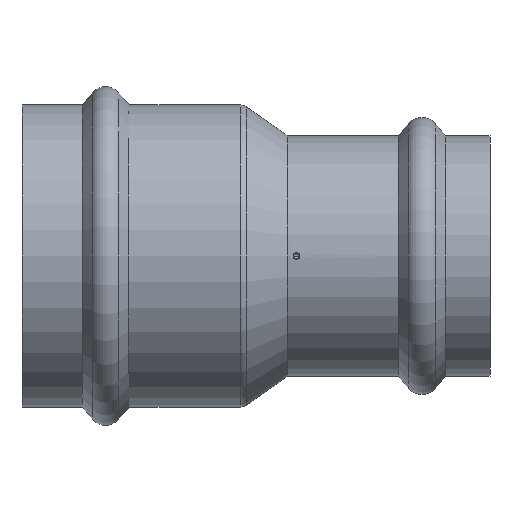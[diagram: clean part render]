
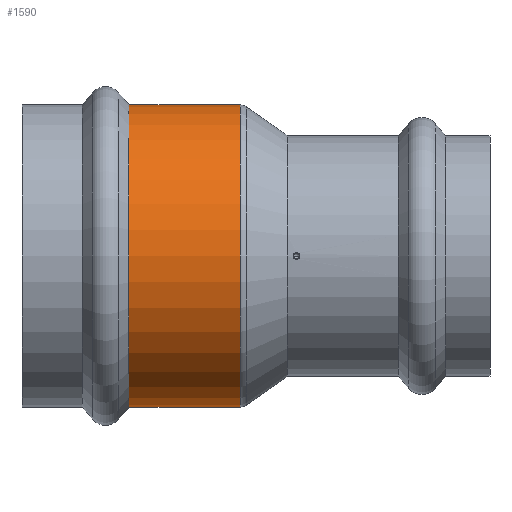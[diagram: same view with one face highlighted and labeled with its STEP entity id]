
A CAD part, front view. The second image highlights one B-rep face of the part: STEP entity #1590.
In plain terms, the highlighted cylindrical face has radius 28.9 mm (diameter 57.8 mm), a partial arc.
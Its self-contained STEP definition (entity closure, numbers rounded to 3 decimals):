
#35 = AXIS2_PLACEMENT_3D ( 'NONE', #1174, #721, #1168 ) ;
#103 = DIRECTION ( 'NONE',  ( 0., 0., 1. ) ) ;
#147 = EDGE_CURVE ( 'NONE', #330, #1966, #167, .T. ) ;
#153 = CARTESIAN_POINT ( 'NONE',  ( -51.79, 0., 28.9 ) ) ;
#167 = CIRCLE ( 'NONE', #35, 28.9 ) ;
#243 = VECTOR ( 'NONE', #1324, 1000. ) ;
#330 = VERTEX_POINT ( 'NONE', #1380 ) ;
#332 = DIRECTION ( 'NONE',  ( -1., 0., 0. ) ) ;
#355 = ORIENTED_EDGE ( 'NONE', *, *, #147, .F. ) ;
#426 = CARTESIAN_POINT ( 'NONE',  ( -51.79, 0., 0. ) ) ;
#451 = CARTESIAN_POINT ( 'NONE',  ( -51.79, 0., -28.9 ) ) ;
#491 = CIRCLE ( 'NONE', #1058, 28.9 ) ;
#541 = DIRECTION ( 'NONE',  ( -1., 0., 0. ) ) ;
#611 = EDGE_CURVE ( 'NONE', #1675, #330, #1770, .T. ) ;
#622 = VERTEX_POINT ( 'NONE', #153 ) ;
#690 = CYLINDRICAL_SURFACE ( 'NONE', #1345, 28.9 ) ;
#721 = DIRECTION ( 'NONE',  ( -1., 0., 0. ) ) ;
#961 = CARTESIAN_POINT ( 'NONE',  ( -55.519, 0., -28.9 ) ) ;
#1019 = EDGE_LOOP ( 'NONE', ( #1663, #1636, #1707, #355 ) ) ;
#1022 = DIRECTION ( 'NONE',  ( 0., 0., 1. ) ) ;
#1058 = AXIS2_PLACEMENT_3D ( 'NONE', #426, #541, #1022 ) ;
#1136 = CARTESIAN_POINT ( 'NONE',  ( -73.045, 0., 28.9 ) ) ;
#1168 = DIRECTION ( 'NONE',  ( 0., 0., 1. ) ) ;
#1174 = CARTESIAN_POINT ( 'NONE',  ( -73.045, 0., 0. ) ) ;
#1211 = FACE_OUTER_BOUND ( 'NONE', #1019, .T. ) ;
#1324 = DIRECTION ( 'NONE',  ( -1., 0., 0. ) ) ;
#1328 = CARTESIAN_POINT ( 'NONE',  ( -55.519, 0., 28.9 ) ) ;
#1345 = AXIS2_PLACEMENT_3D ( 'NONE', #1862, #1761, #103 ) ;
#1365 = EDGE_CURVE ( 'NONE', #1675, #622, #491, .T. ) ;
#1380 = CARTESIAN_POINT ( 'NONE',  ( -73.045, 0., -28.9 ) ) ;
#1414 = EDGE_CURVE ( 'NONE', #622, #1966, #1453, .T. ) ;
#1453 = LINE ( 'NONE', #1328, #243 ) ;
#1590 = ADVANCED_FACE ( 'NONE', ( #1211 ), #690, .T. ) ;
#1636 = ORIENTED_EDGE ( 'NONE', *, *, #1365, .T. ) ;
#1663 = ORIENTED_EDGE ( 'NONE', *, *, #611, .F. ) ;
#1675 = VERTEX_POINT ( 'NONE', #451 ) ;
#1707 = ORIENTED_EDGE ( 'NONE', *, *, #1414, .T. ) ;
#1720 = VECTOR ( 'NONE', #332, 1000. ) ;
#1761 = DIRECTION ( 'NONE',  ( -1., 0., 0. ) ) ;
#1770 = LINE ( 'NONE', #961, #1720 ) ;
#1862 = CARTESIAN_POINT ( 'NONE',  ( -55.519, 0., 0. ) ) ;
#1966 = VERTEX_POINT ( 'NONE', #1136 ) ;
